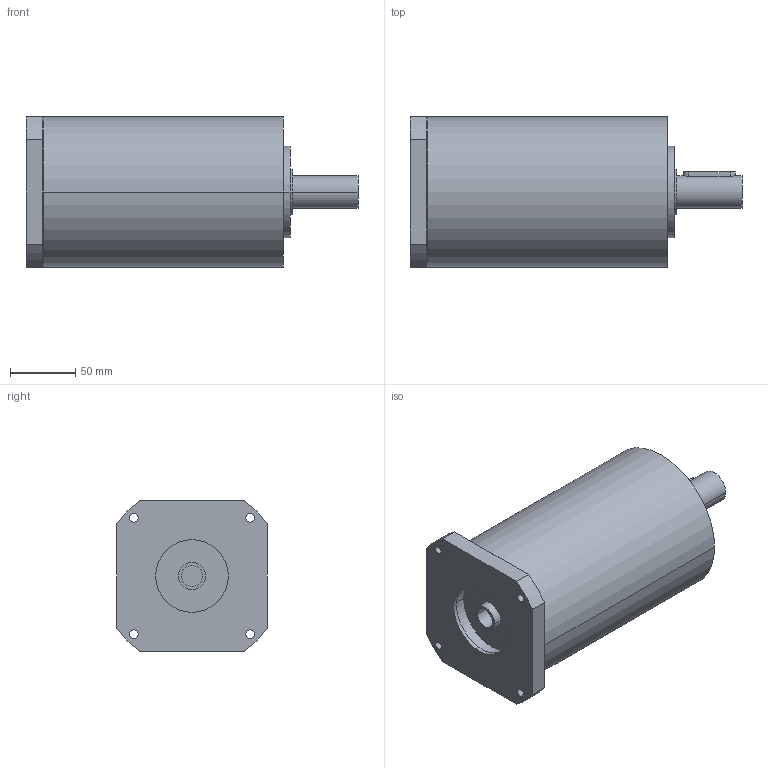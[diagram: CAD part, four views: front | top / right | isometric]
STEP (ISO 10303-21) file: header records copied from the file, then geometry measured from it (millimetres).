
FILE_DESCRIPTION(('CoCreate Modeling STEP Export'),'2;1');
FILE_NAME('GPR125_ig-48-64-80-100-140-196-245-343_25_B14_16_P01.stp','2014-08-26T14:21:21',(''),(''),'CoCreate Modeling STEP processor for AP214 (Solid Model)','CoCreate Modeling 16.00C 25-Feb-2009 (C) Parametric Technology GmbH','');
FILE_SCHEMA(('AUTOMOTIVE_DESIGN { 1 0 10303 214 1 1 1 1 }'));
Length unit declared in the file: millimetre
Products named in the file (2): GPR125_ig-48-64-80-100-140-196-245-343_25_B14_16_P01
Assembly tree (1 placements, depth 2):
  GPR125_ig-48-64-80-100-140-196-245-343_25_B14_16_P01
    GPR125_ig-48-64-80-100-140-196-245-343_25_B14_16_P01
Bounding box: 254 x 115 x 115 mm (x, y, z)
Volume: 2073875.1 mm3; surface area: 112311.7 mm2
Topology: 1 solids, 1 shells, 77 faces, 211 edges, 151 vertices
Faces by surface type: cylinder 48, plane 25, cone 4
Entity records: 2148 total; most frequent: ORIENTED_EDGE 418, CARTESIAN_POINT 398, DIRECTION 288, EDGE_CURVE 209, VERTEX_POINT 151, AXIS2_PLACEMENT_3D 109, EDGE_LOOP 102, FACE_OUTER_BOUND 77
